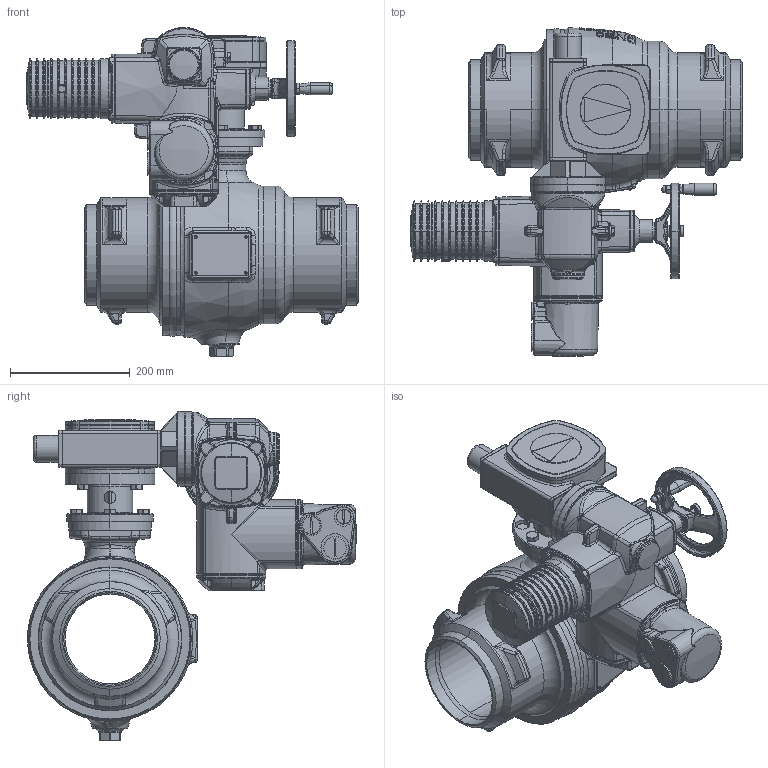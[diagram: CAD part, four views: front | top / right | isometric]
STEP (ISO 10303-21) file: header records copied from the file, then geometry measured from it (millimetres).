
FILE_DESCRIPTION((''),'2;1');
FILE_NAME('ASM0001_ASM','2016-10-17T',('schwaba'),('RAND'),'PRO/ENGINEER BY PARAMETRIC TECHNOLOGY CORPORATION, 2016100','PRO/ENGINEER BY PARAMETRIC TECHNOLOGY CORPORATION, 2016100','');
FILE_SCHEMA(('CONFIG_CONTROL_DESIGN'));
Length unit declared in the file: millimetre
Products named in the file (3): KHSVI_150_FR_WE_O_IT; GS63_F12_SA07_ZWSTK_DN150; ASM0001_ASM
Assembly tree (2 placements, depth 2):
  ASM0001_ASM
    KHSVI_150_FR_WE_O_IT
    GS63_F12_SA07_ZWSTK_DN150
Bounding box: 555.51 x 550.32 x 550.5 mm (x, y, z)
Volume: 18063115.1 mm3; surface area: 1791026.8 mm2
Topology: 4 solids, 14 shells, 3829 faces, 9438 edges, 5708 vertices
Faces by surface type: plane 1259, bspline 782, cylinder 747, cone 463, torus 423, sphere 86, extrusion 58, revolution 11
Entity records: 242725 total; most frequent: CARTESIAN_POINT 158731, ORIENTED_EDGE 18724, DIRECTION 15924, EDGE_CURVE 9362, AXIS2_PLACEMENT_3D 6642, VERTEX_POINT 5708, EDGE_LOOP 4034, FACE_OUTER_BOUND 3829
